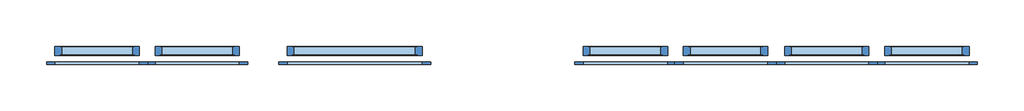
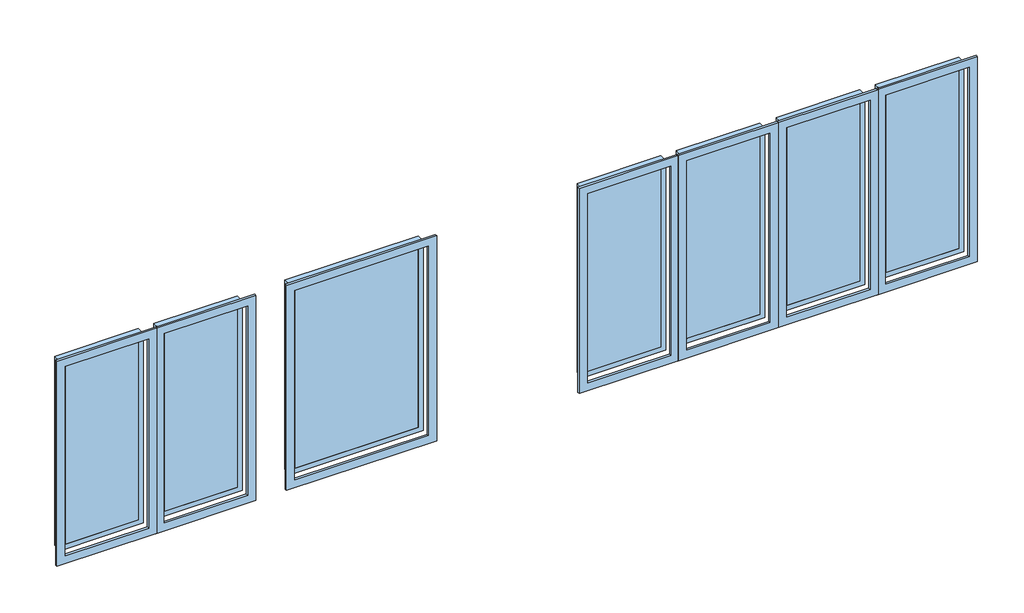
# One storey: 7 windows.
"""IFC4 building model written with IfcOpenShell, lengths in millimetres."""

from ifc_helpers import new_model, si_unit, origin, place, context, project, spatial, transform, mapped, element, save
from components import window_fixed_trim_with_double_glass_750_x_1500_mm_20c75347, window_fixed_trim_with_double_glass_750_x_1500_mm_2_a35bcce7

model = new_model("IFC4")

# Units and contexts
model_context = context("Model", 3, world=origin())
ifc_project = project(units=[si_unit("LENGTHUNIT", "METRE", prefix="MILLI")], contexts=[model_context])

# Site, building, storey
site = spatial("IfcSite", under=ifc_project)
building = spatial("IfcBuilding", under=site)
storey = spatial("IfcBuildingStorey", under=building, Name="طبقه 5", Elevation=16000.0)

# Windows
placement = place(None, origin())
window_fixed_trim_with_double_glass_750_x_1500_mm_shape = window_fixed_trim_with_double_glass_750_x_1500_mm_20c75347(model_context)
element("IfcWindow", 1, ObjectType="Window fixed-trim with double glass : 750 x 1500 mm", at=placement, inside=storey, context=model_context, shape_type="MappedRepresentation", body=[
    mapped(window_fixed_trim_with_double_glass_750_x_1500_mm_shape, transform((1718.1054099, 931.9973325, 15825.0), x_axis=(-1.0, 0.0, 0.0), y_axis=(0.0, -1.0, 0.0), z_axis=(0.0, 0.0, 1.0))),
])
element("IfcWindow", 2, ObjectType="Window fixed-trim with double glass : 750 x 1500 mm", at=placement, inside=storey, context=model_context, shape_type="MappedRepresentation", body=[
    mapped(window_fixed_trim_with_double_glass_750_x_1500_mm_shape, transform((828.1054099, 931.9973325, 15825.0), x_axis=(-1.0, 0.0, 0.0), y_axis=(0.0, -1.0, 0.0), z_axis=(0.0, 0.0, 1.0))),
])
element("IfcWindow", 3, ObjectType="Window fixed-trim with double glass : 750 x 1500 mm", at=placement, inside=storey, context=model_context, shape_type="MappedRepresentation", body=[
    mapped(window_fixed_trim_with_double_glass_750_x_1500_mm_shape, transform((-71.8945901, 931.9973325, 15825.0), x_axis=(-1.0, 0.0, 0.0), y_axis=(0.0, -1.0, 0.0), z_axis=(0.0, 0.0, 1.0))),
])
element("IfcWindow", 4, ObjectType="Window fixed-trim with double glass : 750 x 1500 mm", at=placement, inside=storey, context=model_context, shape_type="MappedRepresentation", body=[
    mapped(window_fixed_trim_with_double_glass_750_x_1500_mm_shape, transform((-961.8945901, 931.9973325, 15825.0), x_axis=(-1.0, 0.0, 0.0), y_axis=(0.0, -1.0, 0.0), z_axis=(0.0, 0.0, 1.0))),
])
element("IfcWindow", 5, ObjectType="Window fixed-trim with double glass : 750 x 1500 mm", at=placement, inside=storey, context=model_context, shape_type="MappedRepresentation", body=[
    mapped(window_fixed_trim_with_double_glass_750_x_1500_mm_shape, transform((-4766.8945901, 931.9973325, 15825.0), x_axis=(-1.0, 0.0, 0.0), y_axis=(0.0, -1.0, 0.0), z_axis=(0.0, 0.0, 1.0))),
])
element("IfcWindow", 6, ObjectType="Window fixed-trim with double glass : 750 x 1500 mm", at=placement, inside=storey, context=model_context, shape_type="MappedRepresentation", body=[
    mapped(window_fixed_trim_with_double_glass_750_x_1500_mm_shape, transform((-5656.8945901, 931.9973325, 15825.0), x_axis=(-1.0, 0.0, 0.0), y_axis=(0.0, -1.0, 0.0), z_axis=(0.0, 0.0, 1.0))),
])
window_fixed_trim_with_double_glass_750_x_1500_mm_2_shape = window_fixed_trim_with_double_glass_750_x_1500_mm_2_a35bcce7(model_context)
element("IfcWindow", 7, ObjectType="Window fixed-trim with double glass : 750 x 1500 mm 2", at=placement, inside=storey, context=model_context, shape_type="MappedRepresentation", body=[
    mapped(window_fixed_trim_with_double_glass_750_x_1500_mm_2_shape, transform((-3367.5938083, 931.9973325, 15825.0), x_axis=(-1.0, 0.0, 0.0), y_axis=(0.0, -1.0, 0.0), z_axis=(0.0, 0.0, 1.0))),
])

save(model, "model.ifc")
